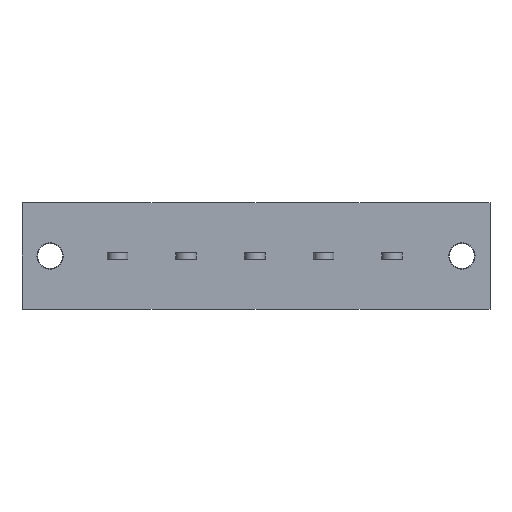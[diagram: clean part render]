
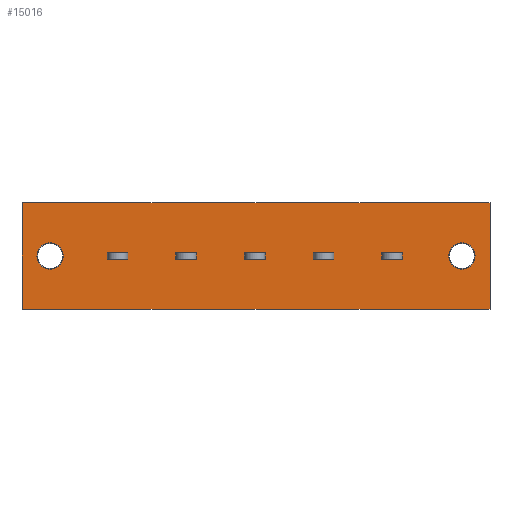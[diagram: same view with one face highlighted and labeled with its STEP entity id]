
A CAD part, front view. The second image highlights one B-rep face of the part: STEP entity #15016.
In plain terms, the highlighted planar face has unit normal (0, -1, 0).
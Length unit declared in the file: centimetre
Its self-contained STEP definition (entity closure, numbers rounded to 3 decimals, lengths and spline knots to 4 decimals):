
#954=VECTOR('',#16200,1.);
#1445=VECTOR('',#16999,1.);
#1614=VECTOR('',#17442,1.);
#1618=VECTOR('',#17449,1.);
#1628=VECTOR('',#17477,1.);
#1631=VECTOR('',#17489,1.);
#1749=VECTOR('',#17803,1.);
#1753=VECTOR('',#17810,1.);
#1763=VECTOR('',#17838,1.);
#1766=VECTOR('',#17850,1.);
#1884=VECTOR('',#18164,1.);
#1888=VECTOR('',#18171,1.);
#1898=VECTOR('',#18199,1.);
#1901=VECTOR('',#18211,1.);
#2019=VECTOR('',#18525,1.);
#2023=VECTOR('',#18532,1.);
#2033=VECTOR('',#18560,1.);
#2036=VECTOR('',#18572,1.);
#2103=VECTOR('',#18697,1.);
#2104=VECTOR('',#18698,1.);
#2105=VECTOR('',#18699,1.);
#2106=VECTOR('',#18700,1.);
#2107=VECTOR('',#18701,1.);
#2108=VECTOR('',#18702,1.);
#2566=LINE('',#20354,#954);
#3057=LINE('',#22193,#1445);
#3226=LINE('',#22748,#1614);
#3230=LINE('',#22759,#1618);
#3240=LINE('',#22790,#1628);
#3243=LINE('',#22801,#1631);
#3361=LINE('',#23202,#1749);
#3365=LINE('',#23213,#1753);
#3375=LINE('',#23244,#1763);
#3378=LINE('',#23255,#1766);
#3496=LINE('',#23656,#1884);
#3500=LINE('',#23667,#1888);
#3510=LINE('',#23698,#1898);
#3513=LINE('',#23709,#1901);
#3631=LINE('',#24110,#2019);
#3635=LINE('',#24121,#2023);
#3645=LINE('',#24152,#2033);
#3648=LINE('',#24163,#2036);
#3715=LINE('',#24325,#2103);
#3716=LINE('',#24328,#2104);
#3717=LINE('',#24330,#2105);
#3718=LINE('',#24332,#2106);
#3719=LINE('',#24333,#2107);
#3720=LINE('',#24334,#2108);
#4219=VERTEX_POINT('',#20355);
#4220=VERTEX_POINT('',#20356);
#4231=VERTEX_POINT('',#20380);
#4666=VERTEX_POINT('',#22194);
#4667=VERTEX_POINT('',#22195);
#4678=VERTEX_POINT('',#22219);
#4849=VERTEX_POINT('',#22749);
#4850=VERTEX_POINT('',#22750);
#4854=VERTEX_POINT('',#22760);
#4864=VERTEX_POINT('',#22791);
#4989=VERTEX_POINT('',#23203);
#4990=VERTEX_POINT('',#23204);
#4994=VERTEX_POINT('',#23214);
#5004=VERTEX_POINT('',#23245);
#5129=VERTEX_POINT('',#23657);
#5130=VERTEX_POINT('',#23658);
#5134=VERTEX_POINT('',#23668);
#5144=VERTEX_POINT('',#23699);
#5269=VERTEX_POINT('',#24111);
#5270=VERTEX_POINT('',#24112);
#5274=VERTEX_POINT('',#24122);
#5284=VERTEX_POINT('',#24153);
#5344=VERTEX_POINT('',#24326);
#5345=VERTEX_POINT('',#24327);
#5346=VERTEX_POINT('',#24329);
#5347=VERTEX_POINT('',#24331);
#5369=CIRCLE('',#24581,0.21);
#5412=CIRCLE('',#24818,0.21);
#6201=EDGE_CURVE('',#4219,#4220,#2566,.T.);
#6213=EDGE_CURVE('',#4231,#4231,#5369,.T.);
#6856=EDGE_CURVE('',#4666,#4667,#3057,.T.);
#6868=EDGE_CURVE('',#4678,#4678,#5412,.T.);
#7117=EDGE_CURVE('',#4849,#4850,#3226,.T.);
#7122=EDGE_CURVE('',#4854,#4849,#3230,.T.);
#7137=EDGE_CURVE('',#4850,#4864,#3240,.T.);
#7142=EDGE_CURVE('',#4864,#4854,#3243,.T.);
#7325=EDGE_CURVE('',#4989,#4990,#3361,.T.);
#7330=EDGE_CURVE('',#4994,#4989,#3365,.T.);
#7345=EDGE_CURVE('',#4990,#5004,#3375,.T.);
#7350=EDGE_CURVE('',#5004,#4994,#3378,.T.);
#7533=EDGE_CURVE('',#5129,#5130,#3496,.T.);
#7538=EDGE_CURVE('',#5134,#5129,#3500,.T.);
#7553=EDGE_CURVE('',#5130,#5144,#3510,.T.);
#7558=EDGE_CURVE('',#5144,#5134,#3513,.T.);
#7741=EDGE_CURVE('',#5269,#5270,#3631,.T.);
#7746=EDGE_CURVE('',#5274,#5269,#3635,.T.);
#7761=EDGE_CURVE('',#5270,#5284,#3645,.T.);
#7766=EDGE_CURVE('',#5284,#5274,#3648,.T.);
#7849=EDGE_CURVE('',#5344,#5345,#3715,.T.);
#7850=EDGE_CURVE('',#5346,#5344,#3716,.T.);
#7851=EDGE_CURVE('',#5347,#5346,#3717,.T.);
#7852=EDGE_CURVE('',#5345,#5347,#3718,.T.);
#7853=EDGE_CURVE('',#4667,#4219,#3719,.T.);
#7854=EDGE_CURVE('',#4220,#4666,#3720,.T.);
#12132=ORIENTED_EDGE('',*,*,#6213,.T.);
#12133=ORIENTED_EDGE('',*,*,#6868,.T.);
#12134=ORIENTED_EDGE('',*,*,#7849,.F.);
#12135=ORIENTED_EDGE('',*,*,#7850,.F.);
#12136=ORIENTED_EDGE('',*,*,#7851,.F.);
#12137=ORIENTED_EDGE('',*,*,#7852,.F.);
#12138=ORIENTED_EDGE('',*,*,#7122,.T.);
#12139=ORIENTED_EDGE('',*,*,#7117,.T.);
#12140=ORIENTED_EDGE('',*,*,#7137,.T.);
#12141=ORIENTED_EDGE('',*,*,#7142,.T.);
#12142=ORIENTED_EDGE('',*,*,#7330,.T.);
#12143=ORIENTED_EDGE('',*,*,#7325,.T.);
#12144=ORIENTED_EDGE('',*,*,#7345,.T.);
#12145=ORIENTED_EDGE('',*,*,#7350,.T.);
#12146=ORIENTED_EDGE('',*,*,#7538,.T.);
#12147=ORIENTED_EDGE('',*,*,#7533,.T.);
#12148=ORIENTED_EDGE('',*,*,#7553,.T.);
#12149=ORIENTED_EDGE('',*,*,#7558,.T.);
#12150=ORIENTED_EDGE('',*,*,#7746,.T.);
#12151=ORIENTED_EDGE('',*,*,#7741,.T.);
#12152=ORIENTED_EDGE('',*,*,#7761,.T.);
#12153=ORIENTED_EDGE('',*,*,#7766,.T.);
#12154=ORIENTED_EDGE('',*,*,#7853,.T.);
#12155=ORIENTED_EDGE('',*,*,#6201,.T.);
#12156=ORIENTED_EDGE('',*,*,#7854,.T.);
#12157=ORIENTED_EDGE('',*,*,#6856,.T.);
#13245=EDGE_LOOP('',(#12132));
#13246=EDGE_LOOP('',(#12133));
#13247=EDGE_LOOP('',(#12134,#12135,#12136,#12137));
#13248=EDGE_LOOP('',(#12138,#12139,#12140,#12141));
#13249=EDGE_LOOP('',(#12142,#12143,#12144,#12145));
#13250=EDGE_LOOP('',(#12146,#12147,#12148,#12149));
#13251=EDGE_LOOP('',(#12150,#12151,#12152,#12153));
#13252=EDGE_LOOP('',(#12154,#12155,#12156,#12157));
#14181=FACE_BOUND('',#13245,.T.);
#14182=FACE_BOUND('',#13246,.T.);
#14183=FACE_BOUND('',#13247,.T.);
#14184=FACE_BOUND('',#13248,.T.);
#14185=FACE_BOUND('',#13249,.T.);
#14186=FACE_BOUND('',#13250,.T.);
#14187=FACE_BOUND('',#13251,.T.);
#14188=FACE_BOUND('',#13252,.T.);
#15016=ADVANCED_FACE('',(#14181,#14182,#14183,#14184,#14185,#14186,#14187,
#14188),#15583,.T.);
#15583=PLANE('',#25448);
#16200=DIRECTION('',(0.,0.,1.));
#16218=DIRECTION('',(0.,1.,0.));
#16219=DIRECTION('',(0.21,0.,0.));
#16999=DIRECTION('',(0.,0.,-1.));
#17017=DIRECTION('',(0.,1.,0.));
#17018=DIRECTION('',(-0.21,0.,0.));
#17442=DIRECTION('',(0.,0.,-1.));
#17449=DIRECTION('',(1.,0.,0.));
#17477=DIRECTION('',(-1.,0.,0.));
#17489=DIRECTION('',(0.,0.,1.));
#17803=DIRECTION('',(0.,0.,-1.));
#17810=DIRECTION('',(1.,0.,0.));
#17838=DIRECTION('',(-1.,0.,0.));
#17850=DIRECTION('',(0.,0.,1.));
#18164=DIRECTION('',(0.,0.,-1.));
#18171=DIRECTION('',(1.,0.,0.));
#18199=DIRECTION('',(-1.,0.,0.));
#18211=DIRECTION('',(0.,0.,1.));
#18525=DIRECTION('',(0.,0.,-1.));
#18532=DIRECTION('',(1.,0.,0.));
#18560=DIRECTION('',(-1.,0.,0.));
#18572=DIRECTION('',(0.,0.,1.));
#18696=DIRECTION('',(0.,-1.,0.));
#18697=DIRECTION('',(-1.,0.,0.));
#18698=DIRECTION('',(0.,0.,1.));
#18699=DIRECTION('',(1.,0.,0.));
#18700=DIRECTION('',(0.,0.,-1.));
#18701=DIRECTION('',(1.,0.,0.));
#18702=DIRECTION('',(-1.,0.,0.));
#20354=CARTESIAN_POINT('',(5.5,0.,0.85));
#20355=CARTESIAN_POINT('',(5.5,0.,-0.85));
#20356=CARTESIAN_POINT('',(5.5,0.,0.85));
#20379=CARTESIAN_POINT('',(5.05,0.,0.));
#20380=CARTESIAN_POINT('',(4.84,0.,0.));
#22193=CARTESIAN_POINT('',(-2.,0.,-0.85));
#22194=CARTESIAN_POINT('',(-2.,0.,0.85));
#22195=CARTESIAN_POINT('',(-2.,0.,-0.85));
#22218=CARTESIAN_POINT('',(-1.55,0.,0.));
#22219=CARTESIAN_POINT('',(-1.34,0.,0.));
#22748=CARTESIAN_POINT('',(4.095,0.,0.));
#22749=CARTESIAN_POINT('',(4.095,0.,0.05));
#22750=CARTESIAN_POINT('',(4.095,0.,-0.05));
#22759=CARTESIAN_POINT('',(1.965,0.,0.05));
#22760=CARTESIAN_POINT('',(3.765,0.,0.05));
#22790=CARTESIAN_POINT('',(1.965,0.,-0.05));
#22791=CARTESIAN_POINT('',(3.765,0.,-0.05));
#22801=CARTESIAN_POINT('',(3.765,0.,0.));
#23202=CARTESIAN_POINT('',(2.995,0.,0.));
#23203=CARTESIAN_POINT('',(2.995,0.,0.05));
#23204=CARTESIAN_POINT('',(2.995,0.,-0.05));
#23213=CARTESIAN_POINT('',(1.415,0.,0.05));
#23214=CARTESIAN_POINT('',(2.665,0.,0.05));
#23244=CARTESIAN_POINT('',(1.415,0.,-0.05));
#23245=CARTESIAN_POINT('',(2.665,0.,-0.05));
#23255=CARTESIAN_POINT('',(2.665,0.,0.));
#23656=CARTESIAN_POINT('',(1.895,0.,0.));
#23657=CARTESIAN_POINT('',(1.895,0.,0.05));
#23658=CARTESIAN_POINT('',(1.895,0.,-0.05));
#23667=CARTESIAN_POINT('',(0.865,0.,0.05));
#23668=CARTESIAN_POINT('',(1.565,0.,0.05));
#23698=CARTESIAN_POINT('',(0.865,0.,-0.05));
#23699=CARTESIAN_POINT('',(1.565,0.,-0.05));
#23709=CARTESIAN_POINT('',(1.565,0.,0.));
#24110=CARTESIAN_POINT('',(0.795,0.,0.));
#24111=CARTESIAN_POINT('',(0.795,0.,0.05));
#24112=CARTESIAN_POINT('',(0.795,0.,-0.05));
#24121=CARTESIAN_POINT('',(0.315,0.,0.05));
#24122=CARTESIAN_POINT('',(0.465,0.,0.05));
#24152=CARTESIAN_POINT('',(0.315,0.,-0.05));
#24153=CARTESIAN_POINT('',(0.465,0.,-0.05));
#24163=CARTESIAN_POINT('',(0.465,0.,0.));
#24324=CARTESIAN_POINT('',(0.,0.,0.));
#24325=CARTESIAN_POINT('',(-0.685,0.,0.05));
#24326=CARTESIAN_POINT('',(-0.305,0.,0.05));
#24327=CARTESIAN_POINT('',(-0.635,0.,0.05));
#24328=CARTESIAN_POINT('',(-0.305,0.,0.));
#24329=CARTESIAN_POINT('',(-0.305,0.,-0.05));
#24330=CARTESIAN_POINT('',(-0.685,0.,-0.05));
#24331=CARTESIAN_POINT('',(-0.635,0.,-0.05));
#24332=CARTESIAN_POINT('',(-0.635,0.,0.));
#24333=CARTESIAN_POINT('',(0.,0.,-0.85));
#24334=CARTESIAN_POINT('',(-1.1,0.,0.85));
#24581=AXIS2_PLACEMENT_3D('',#20379,#16218,#16219);
#24818=AXIS2_PLACEMENT_3D('',#22218,#17017,#17018);
#25448=AXIS2_PLACEMENT_3D('',#24324,#18696,$);
